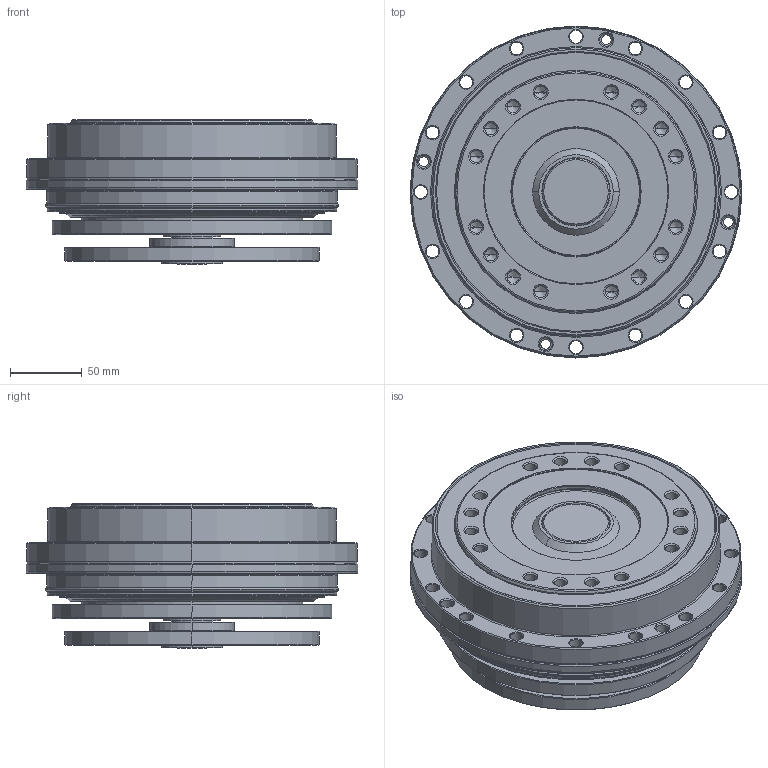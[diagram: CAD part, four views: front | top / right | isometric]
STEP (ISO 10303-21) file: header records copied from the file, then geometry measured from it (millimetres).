
FILE_DESCRIPTION (( 'STEP AP203' ), '1' );
FILE_NAME ('PSC112-V-E-XXX-X-XX-F-0.STEP', '2020-08-20T13:07:19', ( '' ), ( '' ), 'SwSTEP 2.0', 'SolidWorks 2017', '' );
FILE_SCHEMA (( 'CONFIG_CONTROL_DESIGN' ));
Length unit declared in the file: millimetre
Products named in the file (7): 183,83x2,62; 112V-Z2; 170x195x7,5 KS3-SM-00; PSC112-V-E-XXX-X-XX-F-0; 3N4802-09 BGR.Dichtungen PSC112V NBR; 3N4801-17-KS3-SM-01; VK47x10
Assembly tree (6 placements, depth 3):
  PSC112-V-E-XXX-X-XX-F-0
    3N4801-17-KS3-SM-01
    3N4802-09 BGR.Dichtungen PSC112V NBR
      170x195x7,5 KS3-SM-00
      183,83x2,62
      VK47x10
    112V-Z2
Bounding box: 232 x 232 x 101.05 mm (x, y, z)
Volume: 2815714 mm3; surface area: 284821.4 mm2
Topology: 5 solids, 5 shells, 410 faces, 894 edges, 502 vertices
Faces by surface type: cone 208, cylinder 132, plane 40, torus 30
Entity records: 11763 total; most frequent: DIRECTION 2206, CARTESIAN_POINT 1784, ORIENTED_EDGE 1724, AXIS2_PLACEMENT_3D 924, EDGE_CURVE 862, CIRCLE 504, VERTEX_POINT 502, EDGE_LOOP 496
